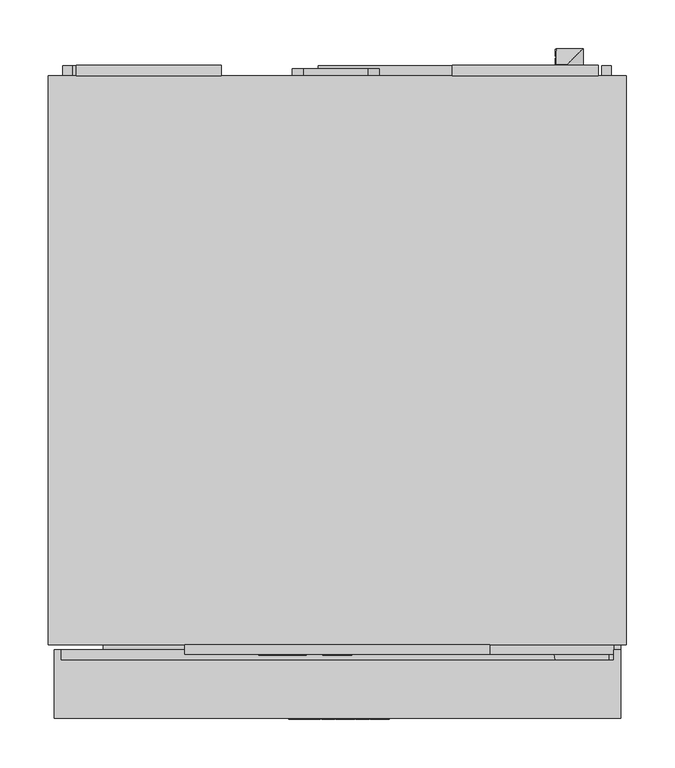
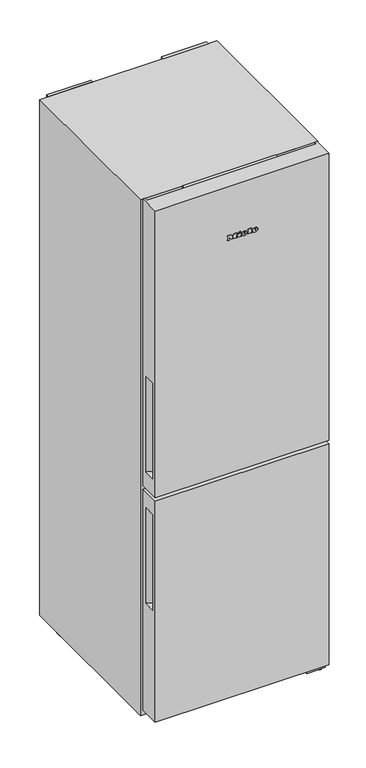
"""IFC4 building model written with IfcOpenShell, lengths in millimetres: proxy geometry, 12113020_J_KFN4375DD_EDTCS : 38437540_J_12113020_KFN4375DD_EDTCS."""

from ifc_helpers import new_model, si_unit, point, frame, frame_2d, origin, origin_with_axes, place, context, project, spatial, polyline, circle_curve, ellipse_curve, trimmed, segment, composite_curve, outline, extrude, faceted_brep, source, transform, mapped, element, save
from ifc_brep_helpers import plane_surface, cylinder_surface, revolved_surface, extruded_surface, advanced_brep


def specialty_equipment_1cc31974(model_context):
    return source(origin(), model_context, "Body", "SolidModel", [
        advanced_brep(
        [(42.14, -675.5, 1668.0722352), (42.14, -675.5, 1669.7892352), (53.513, -675.5, 1669.7892352), (33.725, -675.5, 1669.7892352), (38.4, -675.5, 1664.0432352), (53.224, -675.5, 1668.0722352), (48.09, -675.5, 1668.0722352), (44.044, -675.5, 1666.1682352), (42.14, -675.5, 1671.9652352), (42.14, -675.5, 1673.8182352), (45.047, -675.5, 1673.8182352), (45.047, -675.5, 1671.9652352), (42.14, -674.5, 1668.0722352), (44.044, -674.5, 1666.1682352), (48.09, -674.5, 1668.0722352), (53.224, -674.5, 1668.0722352), (38.4, -674.5, 1664.0432352), (33.725, -674.5, 1669.7892352), (53.513, -674.5, 1669.7892352), (42.14, -674.5, 1669.7892352), (42.14, -674.5, 1671.9652352), (45.047, -674.5, 1671.9652352), (45.047, -674.5, 1673.8182352), (42.14, -674.5, 1673.8182352)],
        [
            (0, 1),
            (1, 2),
            (2, 3, ellipse_curve(frame((43.619, -675.5, 1669.7892352), z_axis=(0.0, -1.0, 0.0), x_axis=(-1.0, 0.0, 0.0)), 9.894, 8.177)),
            (3, 4, circle_curve(frame((40.3040927, -675.5, 1670.3672352), z_axis=(0.0, -1.0, 0.0), x_axis=(0.0, 0.0, -1.0)), 6.6044337)),
            (4, 5, circle_curve(frame((43.4209364, -675.5, 1674.8552352), z_axis=(0.0, -1.0, 0.0), x_axis=(0.0, 0.0, -1.0)), 11.9209541)),
            (5, 6),
            (6, 7, circle_curve(frame((44.875, -675.5, 1669.6532352), z_axis=(0.0, 1.0, 0.0), x_axis=(0.0, 0.0, -1.0)), 3.5827065)),
            (7, 0, circle_curve(frame((44.044, -675.5, 1668.0722352), z_axis=(0.0, 1.0, 0.0), x_axis=(0.0, 0.0, -1.0)), 1.904)),
            (8, 9),
            (9, 10, circle_curve(frame((43.5935, -675.5, 1673.8182352), z_axis=(0.0, 1.0, 0.0), x_axis=(0.0, 0.0, -1.0)), 1.4535)),
            (10, 11),
            (11, 8),
            (12, 13, circle_curve(frame((44.044, -674.5, 1668.0722352), z_axis=(0.0, -1.0, 0.0), x_axis=(0.0, 0.0, -1.0)), 1.904)),
            (13, 14, circle_curve(frame((44.875, -674.5, 1669.6532352), z_axis=(0.0, -1.0, 0.0), x_axis=(0.0, 0.0, -1.0)), 3.5827065)),
            (14, 15),
            (15, 16, circle_curve(frame((43.4209364, -674.5, 1674.8552352), z_axis=(0.0, 1.0, 0.0), x_axis=(0.0, 0.0, -1.0)), 11.9209541)),
            (16, 17, circle_curve(frame((40.3040927, -674.5, 1670.3672352), z_axis=(0.0, 1.0, 0.0), x_axis=(0.0, 0.0, -1.0)), 6.6044337)),
            (17, 18, ellipse_curve(frame((43.619, -674.5, 1669.7892352), z_axis=(0.0, 1.0, 0.0), x_axis=(-1.0, 0.0, 0.0)), 9.894, 8.177)),
            (18, 19),
            (19, 12),
            (20, 21),
            (21, 22),
            (22, 23, circle_curve(frame((43.5935, -674.5, 1673.8182352), z_axis=(0.0, -1.0, 0.0), x_axis=(0.0, 0.0, -1.0)), 1.4535)),
            (23, 20),
            (0, 12),
            (19, 1),
            (18, 2),
            (5, 15),
            (14, 6),
            (17, 3),
            (13, 7),
            (16, 4),
            (8, 20),
            (23, 9),
            (22, 10),
            (21, 11),
        ],
        [
            plane_surface(frame((42.14, -675.5, 1669.7892352), z_axis=(0.0, -1.0, 0.0), x_axis=(0.0, 0.0, 1.0))),
            plane_surface(frame((42.14, -674.5, 1669.7892352), z_axis=(0.0, 1.0, 0.0), x_axis=(0.0, 0.0, -1.0))),
            plane_surface(frame((42.14, -675.5, 1668.0722352), z_axis=(1.0, 0.0, 0.0), x_axis=(0.0, 1.0, 0.0))),
            plane_surface(frame((42.14, -675.5, 1669.7892352), z_axis=(0.0, 0.0, -1.0), x_axis=(0.0, 1.0, 0.0))),
            plane_surface(frame((53.224, -675.5, 1668.0722352), z_axis=(0.0, 0.0, 1.0), x_axis=(0.0, 1.0, 0.0))),
            extruded_surface(trimmed(ellipse_curve(frame((43.619, -673.5, 1669.7892352), z_axis=(0.0, -1.0, 0.0), x_axis=(-1.0, 0.0, 0.0)), 9.894, 8.177), [point((53.513, -673.5, 1669.7892352))], [point((33.725, -673.5, 1669.7892352))], True, "CARTESIAN"), (0.0, -1.0, 0.0), 1.0),
            revolved_surface(polyline([(44.875, -674.5, 1666.0705286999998), (44.875, -675.5, 1666.0705286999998)]), (44.875, -674.5, 1669.6532352), (0.0, 1.0, 0.0)),
            revolved_surface(polyline([(44.044, -674.5, 1666.1682352), (44.044, -675.5, 1666.1682352)]), (44.044, -674.5, 1668.0722352), (0.0, 1.0, 0.0)),
            cylinder_surface(frame((40.3040927, -674.5, 1670.3672352), z_axis=(0.0, -1.0, 0.0), x_axis=(0.0, 0.0, -1.0)), 6.6044337),
            cylinder_surface(frame((43.4209364, -674.5, 1674.8552352), z_axis=(0.0, -1.0, 0.0), x_axis=(0.0, 0.0, -1.0)), 11.9209541),
            plane_surface(frame((42.14, -675.5, 1671.9652352), z_axis=(1.0, 0.0, 0.0), x_axis=(0.0, 1.0, 0.0))),
            revolved_surface(polyline([(43.5935, -674.5, 1672.3647351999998), (43.5935, -675.5, 1672.3647351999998)]), (43.5935, -674.5, 1673.8182352), (0.0, 1.0, 0.0)),
            plane_surface(frame((45.047, -675.5, 1673.8182352), z_axis=(-1.0, 0.0, 0.0), x_axis=(0.0, 1.0, 0.0))),
            plane_surface(frame((45.047, -675.5, 1671.9652352), z_axis=(0.0, 0.0, 1.0), x_axis=(0.0, 1.0, 0.0))),
        ],
        [
            (0, [[1, 2, 3, 4, 5, 6, 7, 8], [9, 10, 11, 12]]),
            (1, [[13, 14, 15, 16, 17, 18, 19, 20], [21, 22, 23, 24]]),
            (2, [[-1, 25, -20, 26]]),
            (3, [[-2, -26, -19, 27]]),
            (4, [[-6, 28, -15, 29]]),
            (5, [[-3, -27, -18, 30]]),
            (6, [[-7, -29, -14, 31]]),
            (7, [[-8, -31, -13, -25]]),
            (8, [[-4, -30, -17, 32]]),
            (9, [[-5, -32, -16, -28]]),
            (10, [[-9, 33, -24, 34]]),
            (11, [[-10, -34, -23, 35]]),
            (12, [[-11, -35, -22, 36]]),
            (13, [[-12, -36, -21, -33]]),
        ],
    ),
        advanced_brep(
        [(6.661, -675.5, 1668.0722352), (6.661, -675.5, 1669.7892352), (18.034, -675.5, 1669.7892352), (-1.754, -675.5, 1669.7892352), (2.921, -675.5, 1664.0432352), (17.745, -675.5, 1668.0722352), (12.611, -675.5, 1668.0722352), (8.565, -675.5, 1666.1682352), (6.661, -675.5, 1671.9652352), (6.661, -675.5, 1673.8182352), (9.568, -675.5, 1673.8182352), (9.568, -675.5, 1671.9652352), (6.661, -674.5, 1668.0722352), (8.565, -674.5, 1666.1682352), (12.611, -674.5, 1668.0722352), (17.745, -674.5, 1668.0722352), (2.921, -674.5, 1664.0432352), (-1.754, -674.5, 1669.7892352), (18.034, -674.5, 1669.7892352), (6.661, -674.5, 1669.7892352), (6.661, -674.5, 1671.9652352), (9.568, -674.5, 1671.9652352), (9.568, -674.5, 1673.8182352), (6.661, -674.5, 1673.8182352)],
        [
            (0, 1),
            (1, 2),
            (2, 3, ellipse_curve(frame((8.14, -675.5, 1669.7892352), z_axis=(0.0, -1.0, 0.0), x_axis=(-1.0, 0.0, 0.0)), 9.894, 8.177)),
            (3, 4, circle_curve(frame((4.8250927, -675.5, 1670.3672352), z_axis=(0.0, -1.0, 0.0), x_axis=(0.0, 0.0, -1.0)), 6.6044337)),
            (4, 5, circle_curve(frame((7.9419364, -675.5, 1674.8552352), z_axis=(0.0, -1.0, 0.0), x_axis=(0.0, 0.0, -1.0)), 11.9209541)),
            (5, 6),
            (6, 7, circle_curve(frame((9.396, -675.5, 1669.6532352), z_axis=(0.0, 1.0, 0.0), x_axis=(0.0, 0.0, -1.0)), 3.5827065)),
            (7, 0, circle_curve(frame((8.565, -675.5, 1668.0722352), z_axis=(0.0, 1.0, 0.0), x_axis=(0.0, 0.0, -1.0)), 1.904)),
            (8, 9),
            (9, 10, circle_curve(frame((8.1145, -675.5, 1673.8182352), z_axis=(0.0, 1.0, 0.0), x_axis=(0.0, 0.0, -1.0)), 1.4535)),
            (10, 11),
            (11, 8),
            (12, 13, circle_curve(frame((8.565, -674.5, 1668.0722352), z_axis=(0.0, -1.0, 0.0), x_axis=(0.0, 0.0, -1.0)), 1.904)),
            (13, 14, circle_curve(frame((9.396, -674.5, 1669.6532352), z_axis=(0.0, -1.0, 0.0), x_axis=(0.0, 0.0, -1.0)), 3.5827065)),
            (14, 15),
            (15, 16, circle_curve(frame((7.9419364, -674.5, 1674.8552352), z_axis=(0.0, 1.0, 0.0), x_axis=(0.0, 0.0, -1.0)), 11.9209541)),
            (16, 17, circle_curve(frame((4.8250927, -674.5, 1670.3672352), z_axis=(0.0, 1.0, 0.0), x_axis=(0.0, 0.0, -1.0)), 6.6044337)),
            (17, 18, ellipse_curve(frame((8.14, -674.5, 1669.7892352), z_axis=(0.0, 1.0, 0.0), x_axis=(-1.0, 0.0, 0.0)), 9.894, 8.177)),
            (18, 19),
            (19, 12),
            (20, 21),
            (21, 22),
            (22, 23, circle_curve(frame((8.1145, -674.5, 1673.8182352), z_axis=(0.0, -1.0, 0.0), x_axis=(0.0, 0.0, -1.0)), 1.4535)),
            (23, 20),
            (0, 12),
            (19, 1),
            (18, 2),
            (5, 15),
            (14, 6),
            (17, 3),
            (13, 7),
            (16, 4),
            (8, 20),
            (23, 9),
            (22, 10),
            (21, 11),
        ],
        [
            plane_surface(frame((6.661, -675.5, 1669.7892352), z_axis=(0.0, -1.0, 0.0), x_axis=(0.0, 0.0, 1.0))),
            plane_surface(frame((6.661, -674.5, 1669.7892352), z_axis=(0.0, 1.0, 0.0), x_axis=(0.0, 0.0, -1.0))),
            plane_surface(frame((6.661, -675.5, 1668.0722352), z_axis=(1.0, 0.0, 0.0), x_axis=(0.0, 1.0, 0.0))),
            plane_surface(frame((6.661, -675.5, 1669.7892352), z_axis=(0.0, 0.0, -1.0), x_axis=(0.0, 1.0, 0.0))),
            plane_surface(frame((17.745, -675.5, 1668.0722352), z_axis=(0.0, 0.0, 1.0), x_axis=(0.0, 1.0, 0.0))),
            extruded_surface(trimmed(ellipse_curve(frame((8.14, -673.5, 1669.7892352), z_axis=(0.0, -1.0, 0.0), x_axis=(-1.0, 0.0, 0.0)), 9.894, 8.177), [point((18.034, -673.5, 1669.7892352))], [point((-1.754, -673.5, 1669.7892352))], True, "CARTESIAN"), (0.0, -1.0, 0.0), 1.0),
            revolved_surface(polyline([(9.396, -674.5, 1666.0705286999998), (9.396, -675.5, 1666.0705286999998)]), (9.396, -674.5, 1669.6532352), (0.0, 1.0, 0.0)),
            revolved_surface(polyline([(8.565, -674.5, 1666.1682352), (8.565, -675.5, 1666.1682352)]), (8.565, -674.5, 1668.0722352), (0.0, 1.0, 0.0)),
            cylinder_surface(frame((4.8250927, -674.5, 1670.3672352), z_axis=(0.0, -1.0, 0.0), x_axis=(0.0, 0.0, -1.0)), 6.6044337),
            cylinder_surface(frame((7.9419364, -674.5, 1674.8552352), z_axis=(0.0, -1.0, 0.0), x_axis=(0.0, 0.0, -1.0)), 11.9209541),
            plane_surface(frame((6.661, -675.5, 1671.9652352), z_axis=(1.0, 0.0, 0.0), x_axis=(0.0, 1.0, 0.0))),
            revolved_surface(polyline([(8.1145, -674.5, 1672.3647351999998), (8.1145, -675.5, 1672.3647351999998)]), (8.1145, -674.5, 1673.8182352), (0.0, 1.0, 0.0)),
            plane_surface(frame((9.568, -675.5, 1673.8182352), z_axis=(-1.0, 0.0, 0.0), x_axis=(0.0, 1.0, 0.0))),
            plane_surface(frame((9.568, -675.5, 1671.9652352), z_axis=(0.0, 0.0, 1.0), x_axis=(0.0, 1.0, 0.0))),
        ],
        [
            (0, [[1, 2, 3, 4, 5, 6, 7, 8], [9, 10, 11, 12]]),
            (1, [[13, 14, 15, 16, 17, 18, 19, 20], [21, 22, 23, 24]]),
            (2, [[-1, 25, -20, 26]]),
            (3, [[-2, -26, -19, 27]]),
            (4, [[-6, 28, -15, 29]]),
            (5, [[-3, -27, -18, 30]]),
            (6, [[-7, -29, -14, 31]]),
            (7, [[-8, -31, -13, -25]]),
            (8, [[-4, -30, -17, 32]]),
            (9, [[-5, -32, -16, -28]]),
            (10, [[-9, 33, -24, 34]]),
            (11, [[-10, -34, -23, 35]]),
            (12, [[-11, -35, -22, 36]]),
            (13, [[-12, -36, -21, -33]]),
        ],
    ),
        extrude(outline(polyline([(1680.0402352, -11.92), (1677.2862352, -10.628), (1679.9722352, -4.865), (1682.7262352, -6.14), (1680.0402352, -11.92)])), frame((0.0, -675.5, 0.0), z_axis=(0.0, 1.0, 0.0), x_axis=(0.0, 0.0, 1.0)), (0.0, 0.0, 1.0), 1.0),
        extrude(outline(polyline([(1676.9122352, -16.119), (1673.8692352, -16.119), (1673.8692352, -14.096), (1666.8992352, -14.096), (1666.8992352, -16.119), (1664.0432352, -16.119), (1664.0432352, -2.706), (1666.8992352, -2.706), (1666.8992352, -4.678), (1676.9122352, -4.678), (1676.9122352, -16.119)])), frame((0.0, -675.5, 0.0), z_axis=(0.0, 1.0, 0.0), x_axis=(0.0, 0.0, 1.0)), (0.0, 0.0, 1.0), 1.0),
        extrude(outline(polyline([(1678.2722352, 18.986), (1678.2722352, 21.026), (1666.8992352, 21.026), (1666.8992352, 18.986), (1664.0432352, 18.986), (1664.0432352, 32.773), (1666.8992352, 32.773), (1666.8992352, 30.682), (1681.0432352, 30.682), (1681.0432352, 18.986), (1678.2722352, 18.986)])), frame((0.0, -675.5, 0.0), z_axis=(0.0, 1.0, 0.0), x_axis=(0.0, 0.0, 1.0)), (0.0, 0.0, 1.0), 1.0),
        extrude(outline(polyline([(1678.2722352, -50.0), (1678.2722352, -47.943), (1666.8992352, -47.943), (1666.8992352, -50.0), (1664.0432352, -50.0), (1664.0432352, -42.52), (1666.8992352, -42.52), (1666.8992352, -44.56), (1674.0733599, -44.56), (1664.0432352, -36.961), (1674.4834575, -29.328), (1666.8992352, -29.328), (1666.8992352, -31.419), (1664.0432352, -31.419), (1664.0432352, -17.853), (1666.8992352, -17.853), (1666.8992352, -20.012), (1678.2722352, -20.012), (1678.2722352, -17.853), (1681.0432352, -17.853), (1681.0432352, -28.206), (1674.6682352, -33.17), (1681.0432352, -38.151), (1681.0432352, -50.0), (1678.2722352, -50.0)])), frame((0.0, -675.5, 0.0), z_axis=(0.0, 1.0, 0.0), x_axis=(0.0, 0.0, 1.0)), (0.0, 0.0, 1.0), 1.0),
        advanced_brep(
        [(-37.64, -609.5, 1825.408), (-37.64, -609.5, 1826.216), (-32.288, -609.5, 1826.216), (-41.6, -609.5, 1826.216), (-39.4, -609.5, 1823.512), (-32.424, -609.5, 1825.408), (-34.84, -609.5, 1825.408), (-36.744, -609.5, 1824.512), (-37.64, -609.5, 1827.24), (-37.64, -609.5, 1828.112), (-36.272, -609.5, 1828.112), (-36.272, -609.5, 1827.24), (-37.64, -608.5, 1825.408), (-36.744, -608.5, 1824.512), (-34.84, -608.5, 1825.408), (-32.424, -608.5, 1825.408), (-39.4, -608.5, 1823.512), (-41.6, -608.5, 1826.216), (-32.288, -608.5, 1826.216), (-37.64, -608.5, 1826.216), (-37.64, -608.5, 1827.24), (-36.272, -608.5, 1827.24), (-36.272, -608.5, 1828.112), (-37.64, -608.5, 1828.112)],
        [
            (0, 1),
            (1, 2),
            (2, 3, ellipse_curve(frame((-36.944, -609.5, 1826.216), z_axis=(0.0, -1.0, 0.0), x_axis=(-1.0, 0.0, 0.0)), 4.656, 3.848)),
            (3, 4, circle_curve(frame((-38.5039564, -609.5, 1826.488), z_axis=(0.0, -1.0, 0.0), x_axis=(0.0, 0.0, -1.0)), 3.1079688)),
            (4, 5, circle_curve(frame((-37.0372064, -609.5, 1828.6), z_axis=(0.0, -1.0, 0.0), x_axis=(0.0, 0.0, -1.0)), 5.6098607)),
            (5, 6),
            (6, 7, circle_curve(frame((-36.3529412, -609.5, 1826.152), z_axis=(0.0, 1.0, 0.0), x_axis=(0.0, 0.0, -1.0)), 1.6859795)),
            (7, 0, circle_curve(frame((-36.744, -609.5, 1825.408), z_axis=(0.0, 1.0, 0.0), x_axis=(0.0, 0.0, -1.0)), 0.896)),
            (8, 9),
            (9, 10, circle_curve(frame((-36.956, -609.5, 1828.112), z_axis=(0.0, 1.0, 0.0), x_axis=(0.0, 0.0, -1.0)), 0.684)),
            (10, 11),
            (11, 8),
            (12, 13, circle_curve(frame((-36.744, -608.5, 1825.408), z_axis=(0.0, -1.0, 0.0), x_axis=(0.0, 0.0, -1.0)), 0.896)),
            (13, 14, circle_curve(frame((-36.3529412, -608.5, 1826.152), z_axis=(0.0, -1.0, 0.0), x_axis=(0.0, 0.0, -1.0)), 1.6859795)),
            (14, 15),
            (15, 16, circle_curve(frame((-37.0372064, -608.5, 1828.6), z_axis=(0.0, 1.0, 0.0), x_axis=(0.0, 0.0, -1.0)), 5.6098607)),
            (16, 17, circle_curve(frame((-38.5039564, -608.5, 1826.488), z_axis=(0.0, 1.0, 0.0), x_axis=(0.0, 0.0, -1.0)), 3.1079688)),
            (17, 18, ellipse_curve(frame((-36.944, -608.5, 1826.216), z_axis=(0.0, 1.0, 0.0), x_axis=(-1.0, 0.0, 0.0)), 4.656, 3.848)),
            (18, 19),
            (19, 12),
            (20, 21),
            (21, 22),
            (22, 23, circle_curve(frame((-36.956, -608.5, 1828.112), z_axis=(0.0, -1.0, 0.0), x_axis=(0.0, 0.0, -1.0)), 0.684)),
            (23, 20),
            (0, 12),
            (19, 1),
            (18, 2),
            (5, 15),
            (14, 6),
            (17, 3),
            (13, 7),
            (16, 4),
            (8, 20),
            (23, 9),
            (22, 10),
            (21, 11),
        ],
        [
            plane_surface(frame((-37.64, -609.5, 1826.216), z_axis=(0.0, -1.0, 0.0), x_axis=(0.0, 0.0, 1.0))),
            plane_surface(frame((-37.64, -608.5, 1826.216), z_axis=(0.0, 1.0, 0.0), x_axis=(0.0, 0.0, -1.0))),
            plane_surface(frame((-37.64, -609.5, 1825.408), z_axis=(1.0, 0.0, 0.0), x_axis=(0.0, 1.0, 0.0))),
            plane_surface(frame((-37.64, -609.5, 1826.216), z_axis=(0.0, 0.0, -1.0), x_axis=(0.0, 1.0, 0.0))),
            plane_surface(frame((-32.424, -609.5, 1825.408), z_axis=(0.0, 0.0, 1.0), x_axis=(0.0, 1.0, 0.0))),
            extruded_surface(trimmed(ellipse_curve(frame((-36.944, -607.5, 1826.216), z_axis=(0.0, -1.0, 0.0), x_axis=(-1.0, 0.0, 0.0)), 4.656, 3.848), [point((-32.288, -607.5, 1826.216))], [point((-41.6, -607.5, 1826.216))], True, "CARTESIAN"), (0.0, -1.0, 0.0), 1.0),
            revolved_surface(polyline([(-36.3529412, -608.5, 1824.4660205), (-36.3529412, -609.5, 1824.4660205)]), (-36.3529412, -608.5, 1826.152), (0.0, 1.0, 0.0)),
            revolved_surface(polyline([(-36.744, -608.5, 1824.512), (-36.744, -609.5, 1824.512)]), (-36.744, -608.5, 1825.408), (0.0, 1.0, 0.0)),
            cylinder_surface(frame((-38.5039564, -608.5, 1826.488), z_axis=(0.0, -1.0, 0.0), x_axis=(0.0, 0.0, -1.0)), 3.1079688),
            cylinder_surface(frame((-37.0372064, -608.5, 1828.6), z_axis=(0.0, -1.0, 0.0), x_axis=(0.0, 0.0, -1.0)), 5.6098607),
            plane_surface(frame((-37.64, -609.5, 1827.24), z_axis=(1.0, 0.0, 0.0), x_axis=(0.0, 1.0, 0.0))),
            revolved_surface(polyline([(-36.956, -608.5, 1827.428), (-36.956, -609.5, 1827.428)]), (-36.956, -608.5, 1828.112), (0.0, 1.0, 0.0)),
            plane_surface(frame((-36.272, -609.5, 1828.112), z_axis=(-1.0, 0.0, 0.0), x_axis=(0.0, 1.0, 0.0))),
            plane_surface(frame((-36.272, -609.5, 1827.24), z_axis=(0.0, 0.0, 1.0), x_axis=(0.0, 1.0, 0.0))),
        ],
        [
            (0, [[1, 2, 3, 4, 5, 6, 7, 8], [9, 10, 11, 12]]),
            (1, [[13, 14, 15, 16, 17, 18, 19, 20], [21, 22, 23, 24]]),
            (2, [[-1, 25, -20, 26]]),
            (3, [[-2, -26, -19, 27]]),
            (4, [[-6, 28, -15, 29]]),
            (5, [[-3, -27, -18, 30]]),
            (6, [[-7, -29, -14, 31]]),
            (7, [[-8, -31, -13, -25]]),
            (8, [[-4, -30, -17, 32]]),
            (9, [[-5, -32, -16, -28]]),
            (10, [[-9, 33, -24, 34]]),
            (11, [[-10, -34, -23, 35]]),
            (12, [[-11, -35, -22, 36]]),
            (13, [[-12, -36, -21, -33]]),
        ],
    ),
        advanced_brep(
        [(-54.336, -609.5, 1825.408), (-54.336, -609.5, 1826.216), (-48.984, -609.5, 1826.216), (-58.296, -609.5, 1826.216), (-56.096, -609.5, 1823.512), (-49.12, -609.5, 1825.408), (-51.536, -609.5, 1825.408), (-53.44, -609.5, 1824.512), (-54.336, -609.5, 1827.24), (-54.336, -609.5, 1828.112), (-52.968, -609.5, 1828.112), (-52.968, -609.5, 1827.24), (-54.336, -608.5, 1825.408), (-53.44, -608.5, 1824.512), (-51.536, -608.5, 1825.408), (-49.12, -608.5, 1825.408), (-56.096, -608.5, 1823.512), (-58.296, -608.5, 1826.216), (-48.984, -608.5, 1826.216), (-54.336, -608.5, 1826.216), (-54.336, -608.5, 1827.24), (-52.968, -608.5, 1827.24), (-52.968, -608.5, 1828.112), (-54.336, -608.5, 1828.112)],
        [
            (0, 1),
            (1, 2),
            (2, 3, ellipse_curve(frame((-53.64, -609.5, 1826.216), z_axis=(0.0, -1.0, 0.0), x_axis=(-1.0, 0.0, 0.0)), 4.656, 3.848)),
            (3, 4, circle_curve(frame((-55.1999564, -609.5, 1826.488), z_axis=(0.0, -1.0, 0.0), x_axis=(0.0, 0.0, -1.0)), 3.1079688)),
            (4, 5, circle_curve(frame((-53.7332064, -609.5, 1828.6), z_axis=(0.0, -1.0, 0.0), x_axis=(0.0, 0.0, -1.0)), 5.6098607)),
            (5, 6),
            (6, 7, circle_curve(frame((-53.0489412, -609.5, 1826.152), z_axis=(0.0, 1.0, 0.0), x_axis=(0.0, 0.0, -1.0)), 1.6859795)),
            (7, 0, circle_curve(frame((-53.44, -609.5, 1825.408), z_axis=(0.0, 1.0, 0.0), x_axis=(0.0, 0.0, -1.0)), 0.896)),
            (8, 9),
            (9, 10, circle_curve(frame((-53.652, -609.5, 1828.112), z_axis=(0.0, 1.0, 0.0), x_axis=(0.0, 0.0, -1.0)), 0.684)),
            (10, 11),
            (11, 8),
            (12, 13, circle_curve(frame((-53.44, -608.5, 1825.408), z_axis=(0.0, -1.0, 0.0), x_axis=(0.0, 0.0, -1.0)), 0.896)),
            (13, 14, circle_curve(frame((-53.0489412, -608.5, 1826.152), z_axis=(0.0, -1.0, 0.0), x_axis=(0.0, 0.0, -1.0)), 1.6859795)),
            (14, 15),
            (15, 16, circle_curve(frame((-53.7332064, -608.5, 1828.6), z_axis=(0.0, 1.0, 0.0), x_axis=(0.0, 0.0, -1.0)), 5.6098607)),
            (16, 17, circle_curve(frame((-55.1999564, -608.5, 1826.488), z_axis=(0.0, 1.0, 0.0), x_axis=(0.0, 0.0, -1.0)), 3.1079688)),
            (17, 18, ellipse_curve(frame((-53.64, -608.5, 1826.216), z_axis=(0.0, 1.0, 0.0), x_axis=(-1.0, 0.0, 0.0)), 4.656, 3.848)),
            (18, 19),
            (19, 12),
            (20, 21),
            (21, 22),
            (22, 23, circle_curve(frame((-53.652, -608.5, 1828.112), z_axis=(0.0, -1.0, 0.0), x_axis=(0.0, 0.0, -1.0)), 0.684)),
            (23, 20),
            (0, 12),
            (19, 1),
            (18, 2),
            (5, 15),
            (14, 6),
            (17, 3),
            (13, 7),
            (16, 4),
            (8, 20),
            (23, 9),
            (22, 10),
            (21, 11),
        ],
        [
            plane_surface(frame((-54.336, -609.5, 1826.216), z_axis=(0.0, -1.0, 0.0), x_axis=(0.0, 0.0, 1.0))),
            plane_surface(frame((-54.336, -608.5, 1826.216), z_axis=(0.0, 1.0, 0.0), x_axis=(0.0, 0.0, -1.0))),
            plane_surface(frame((-54.336, -609.5, 1825.408), z_axis=(1.0, 0.0, 0.0), x_axis=(0.0, 1.0, 0.0))),
            plane_surface(frame((-54.336, -609.5, 1826.216), z_axis=(0.0, 0.0, -1.0), x_axis=(0.0, 1.0, 0.0))),
            plane_surface(frame((-49.12, -609.5, 1825.408), z_axis=(0.0, 0.0, 1.0), x_axis=(0.0, 1.0, 0.0))),
            extruded_surface(trimmed(ellipse_curve(frame((-53.64, -607.5, 1826.216), z_axis=(0.0, -1.0, 0.0), x_axis=(-1.0, 0.0, 0.0)), 4.656, 3.848), [point((-48.984, -607.5, 1826.216))], [point((-58.296, -607.5, 1826.216))], True, "CARTESIAN"), (0.0, -1.0, 0.0), 1.0),
            revolved_surface(polyline([(-53.0489412, -608.5, 1824.4660205), (-53.0489412, -609.5, 1824.4660205)]), (-53.0489412, -608.5, 1826.152), (0.0, 1.0, 0.0)),
            revolved_surface(polyline([(-53.44, -608.5, 1824.512), (-53.44, -609.5, 1824.512)]), (-53.44, -608.5, 1825.408), (0.0, 1.0, 0.0)),
            cylinder_surface(frame((-55.1999564, -608.5, 1826.488), z_axis=(0.0, -1.0, 0.0), x_axis=(0.0, 0.0, -1.0)), 3.1079688),
            cylinder_surface(frame((-53.7332064, -608.5, 1828.6), z_axis=(0.0, -1.0, 0.0), x_axis=(0.0, 0.0, -1.0)), 5.6098607),
            plane_surface(frame((-54.336, -609.5, 1827.24), z_axis=(1.0, 0.0, 0.0), x_axis=(0.0, 1.0, 0.0))),
            revolved_surface(polyline([(-53.652, -608.5, 1827.428), (-53.652, -609.5, 1827.428)]), (-53.652, -608.5, 1828.112), (0.0, 1.0, 0.0)),
            plane_surface(frame((-52.968, -609.5, 1828.112), z_axis=(-1.0, 0.0, 0.0), x_axis=(0.0, 1.0, 0.0))),
            plane_surface(frame((-52.968, -609.5, 1827.24), z_axis=(0.0, 0.0, 1.0), x_axis=(0.0, 1.0, 0.0))),
        ],
        [
            (0, [[1, 2, 3, 4, 5, 6, 7, 8], [9, 10, 11, 12]]),
            (1, [[13, 14, 15, 16, 17, 18, 19, 20], [21, 22, 23, 24]]),
            (2, [[-1, 25, -20, 26]]),
            (3, [[-2, -26, -19, 27]]),
            (4, [[-6, 28, -15, 29]]),
            (5, [[-3, -27, -18, 30]]),
            (6, [[-7, -29, -14, 31]]),
            (7, [[-8, -31, -13, -25]]),
            (8, [[-4, -30, -17, 32]]),
            (9, [[-5, -32, -16, -28]]),
            (10, [[-9, 33, -24, 34]]),
            (11, [[-10, -34, -23, 35]]),
            (12, [[-11, -35, -22, 36]]),
            (13, [[-12, -36, -21, -33]]),
        ],
    ),
        extrude(outline(polyline([(1831.04, -63.08), (1829.744, -62.472), (1831.008, -59.76), (1832.304, -60.36), (1831.04, -63.08)])), frame((0.0, -609.5, 0.0), z_axis=(0.0, 1.0, 0.0), x_axis=(0.0, 0.0, 1.0)), (0.0, 0.0, 1.0), 1.0),
        extrude(outline(polyline([(1829.568, -65.056), (1828.136, -65.056), (1828.136, -64.104), (1824.856, -64.104), (1824.856, -65.056), (1823.512, -65.056), (1823.512, -58.744), (1824.856, -58.744), (1824.856, -59.672), (1829.568, -59.672), (1829.568, -65.056)])), frame((0.0, -609.5, 0.0), z_axis=(0.0, 1.0, 0.0), x_axis=(0.0, 0.0, 1.0)), (0.0, 0.0, 1.0), 1.0),
        extrude(outline(polyline([(1830.208, -48.536), (1830.208, -47.576), (1824.856, -47.576), (1824.856, -48.536), (1823.512, -48.536), (1823.512, -42.048), (1824.856, -42.048), (1824.856, -43.032), (1831.512, -43.032), (1831.512, -48.536), (1830.208, -48.536)])), frame((0.0, -609.5, 0.0), z_axis=(0.0, 1.0, 0.0), x_axis=(0.0, 0.0, 1.0)), (0.0, 0.0, 1.0), 1.0),
        extrude(outline(polyline([(1830.208, -81.0), (1830.208, -80.032), (1824.856, -80.032), (1824.856, -81.0), (1823.512, -81.0), (1823.512, -77.48), (1824.856, -77.48), (1824.856, -78.44), (1828.2591247, -78.44), (1823.512, -74.864), (1828.3272223, -71.272), (1824.856, -71.272), (1824.856, -72.256), (1823.512, -72.256), (1823.512, -65.872), (1824.856, -65.872), (1824.856, -66.888), (1830.208, -66.888), (1830.208, -65.872), (1831.512, -65.872), (1831.512, -70.744), (1828.512, -73.08), (1831.512, -75.424), (1831.512, -81.0), (1830.208, -81.0)])), frame((0.0, -609.5, 0.0), z_axis=(0.0, 1.0, 0.0), x_axis=(0.0, 0.0, 1.0)), (0.0, 0.0, 1.0), 1.0),
        extrude(outline(polyline([(15.0, -609.5), (-15.0, -609.5), (-15.0, -606.5), (15.0, -606.5), (15.0, -609.5)])), frame((0.0, 0.0, 1812.0), z_axis=(0.0, 0.0, 1.0), x_axis=(1.0, 0.0, 0.0)), (0.0, 0.0, 1.0), 28.0),
        extrude(outline(polyline([(1845.5, 105.0), (1845.5, -105.0), (1806.5, -105.0), (1806.5, 105.0), (1845.5, 105.0)]), holes=[polyline([(1840.0, -15.0), (1840.0, 15.0), (1812.0, 15.0), (1812.0, -15.0), (1840.0, -15.0)])]), frame((0.0, -608.5, 0.0), z_axis=(0.0, 1.0, 0.0), x_axis=(0.0, 0.0, 1.0)), (0.0, 0.0, 1.0), 2.0),
        faceted_brep([(157.5, -598.5, 1802.0), (157.5, -608.5, 1802.0), (-157.5, -608.5, 1802.0), (-157.5, -598.5, 1802.0), (157.5, -598.5, 1850.0), (-157.5, -598.5, 1850.0), (-157.5, -608.5, 1850.0), (157.5, -608.5, 1850.0), (-105.0, -608.5, 1845.5), (105.0, -608.5, 1845.5), (105.0, -608.5, 1806.5), (-105.0, -608.5, 1806.5), (105.0, -606.5, 1845.5), (-105.0, -606.5, 1845.5), (-105.0, -606.5, 1806.5), (105.0, -606.5, 1806.5)], [[[0, 1, 2, 3]], [[4, 5, 6, 7]], [[0, 3, 5, 4]], [[3, 2, 6, 5]], [[2, 1, 7, 6], [8, 9, 10, 11]], [[1, 0, 4, 7]], [[12, 13, 14, 15]], [[13, 12, 9, 8]], [[14, 13, 8, 11]], [[15, 14, 11, 10]], [[12, 15, 10, 9]]]),
        extrude(outline(polyline([(282.8810028, -10.5), (272.8810028, -10.5), (272.8810028, 0.0), (282.8810028, 0.0), (282.8810028, -10.5)])), frame((0.0, 0.0, 237.8679319), z_axis=(0.0, 0.0, 1.0), x_axis=(1.0, 0.0, 0.0)), (0.0, 0.0, 1.0), 20.0),
        extrude(outline(polyline([(-273.8280905, -10.5), (-283.8280905, -10.5), (-283.8280905, 0.0), (-273.8280905, 0.0), (-273.8280905, -10.5)])), frame((0.0, 0.0, 238.6137901), z_axis=(0.0, 0.0, 1.0), x_axis=(1.0, 0.0, 0.0)), (0.0, 0.0, 1.0), 20.0),
        extrude(outline(composite_curve([segment(trimmed(circle_curve(frame_2d((840.8612688, -34.7533113)), 12.0), [point((852.8612688, -34.7533113))], [point((840.8612688, -46.7533113))], False, "CARTESIAN"), True, "CONTINUOUS"), segment(polyline([(840.8612688, -46.7533113), (814.8612688, -46.7533113)]), True, "CONTINUOUS"), segment(trimmed(circle_curve(frame_2d((814.8612688, -34.7533113)), 12.0), [point((814.8612688, -46.7533113))], [point((802.8612688, -34.7533113))], False, "CARTESIAN"), True, "CONTINUOUS"), segment(polyline([(802.8612688, -34.7533113), (802.8612688, 31.2466887)]), True, "CONTINUOUS"), segment(trimmed(circle_curve(frame_2d((814.8612688, 31.2466887)), 12.0), [point((802.8612688, 31.2466887))], [point((814.8612688, 43.2466887))], False, "CARTESIAN"), True, "CONTINUOUS"), segment(polyline([(814.8612688, 43.2466887), (840.8612688, 43.2466887)]), True, "CONTINUOUS"), segment(trimmed(circle_curve(frame_2d((840.8612688, 31.2466887)), 12.0), [point((840.8612688, 43.2466887))], [point((852.8612688, 31.2466887))], False, "CARTESIAN"), True, "CONTINUOUS"), segment(polyline([(852.8612688, 31.2466887), (852.8612688, -34.7533113)]), True, "CONTINUOUS")], self_intersect=False)), frame((0.0, -10.5, 0.0), z_axis=(0.0, 1.0, 0.0), x_axis=(0.0, 0.0, 1.0)), (0.0, 0.0, 1.0), 7.0),
        extrude(outline(polyline([(151.5, -10.5), (-19.5, -10.5), (-19.5, 0.0), (151.5, 0.0), (151.5, -10.5)])), frame((0.0, 0.0, 64.0), z_axis=(0.0, 0.0, 1.0), x_axis=(1.0, 0.0, 0.0)), (0.0, 0.0, 1.0), 96.0),
        extrude(outline(polyline([(-135.5, -10.5), (-274.5, -10.5), (-274.5, 0.0), (-135.5, 0.0), (-135.5, -10.5)])), frame((0.0, 0.0, 64.0), z_axis=(0.0, 0.0, 1.0), x_axis=(1.0, 0.0, 0.0)), (0.0, 0.0, 1.0), 96.0),
        extrude(outline(polyline([(269.5372046, -10.5), (118.7052435, -10.5), (118.7052435, 0.0), (269.5372046, 0.0), (269.5372046, -10.5)])), frame((0.0, 0.0, 1826.0), z_axis=(0.0, 0.0, 1.0), x_axis=(1.0, 0.0, 0.0)), (0.0, 0.0, 1.0), 24.0),
        extrude(outline(polyline([(-119.8489664, -10.5), (-269.5372046, -10.5), (-269.5372046, 0.0), (-119.8489664, 0.0), (-119.8489664, -10.5)])), frame((0.0, 0.0, 1826.0), z_axis=(0.0, 0.0, 1.0), x_axis=(1.0, 0.0, 0.0)), (0.0, 0.0, 1.0), 24.0),
        extrude(outline(composite_curve([segment(trimmed(circle_curve(frame_2d((-247.5, -584.5103704)), 10.0), [point((-257.5, -584.5103704))], [point((-237.5, -584.5103704))], False, "CARTESIAN"), True, "CONTINUOUS"), segment(trimmed(circle_curve(frame_2d((-247.5, -584.5103704)), 10.0), [point((-237.5, -584.5103704))], [point((-257.5, -584.5103704))], False, "CARTESIAN"), True, "CONTINUOUS")], self_intersect=False)), origin_with_axes(), (0.0, 0.0, 1.0), 15.0),
        extrude(outline(composite_curve([segment(trimmed(circle_curve(frame_2d((247.5, -584.4761218)), 10.0), [point((237.5, -584.4761218))], [point((257.5, -584.4761218))], False, "CARTESIAN"), True, "CONTINUOUS"), segment(trimmed(circle_curve(frame_2d((247.5, -584.4761218)), 10.0), [point((257.5, -584.4761218))], [point((237.5, -584.4761218))], False, "CARTESIAN"), True, "CONTINUOUS")], self_intersect=False)), origin_with_axes(), (0.0, 0.0, 1.0), 15.0),
        extrude(outline(polyline([(271.8948956, -31.0417683), (271.8948956, -529.6387407), (-271.8948956, -529.6387407), (-271.8948956, -31.0417683), (271.8948956, -31.0417683)])), frame((0.0, 0.0, 5.0), z_axis=(0.0, 0.0, 1.0), x_axis=(1.0, 0.0, 0.0)), (0.0, 0.0, 1.0), 10.0),
        faceted_brep([(298.5, -10.5, 1850.0), (-298.5, -10.5, 1850.0), (-298.5, -598.5, 1850.0), (298.5, -598.5, 1850.0), (298.5, -10.5, 15.0), (298.5, -598.5, 15.0), (-298.5, -598.5, 15.0), (-298.5, -10.5, 15.0), (-240.0, -598.5, 1785.0), (240.0, -598.5, 1785.0), (240.0, -598.5, 848.0), (-240.0, -598.5, 848.0), (-240.0, -598.5, 800.0), (240.0, -598.5, 800.0), (240.0, -598.5, 165.0), (-240.0, -598.5, 165.0), (-240.0, -71.5, 1785.0), (240.0, -71.5, 1785.0), (240.0, -71.5, 848.0), (-240.0, -71.5, 848.0), (-240.0, -71.5, 800.0), (240.0, -71.5, 800.0), (240.0, -71.5, 165.0), (-240.0, -71.5, 165.0)], [[[0, 1, 2, 3]], [[4, 5, 6, 7]], [[1, 0, 4, 7]], [[2, 1, 7, 6]], [[3, 2, 6, 5], [8, 9, 10, 11], [12, 13, 14, 15]], [[0, 3, 5, 4]], [[16, 17, 9, 8]], [[18, 19, 11, 10]], [[17, 16, 19, 18]], [[19, 16, 8, 11]], [[17, 18, 10, 9]], [[20, 21, 13, 12]], [[22, 23, 15, 14]], [[21, 20, 23, 22]], [[23, 20, 12, 15]], [[21, 22, 14, 13]]]),
        extrude(outline(polyline([(-43.4087271, 0.0), (-57.6632757, 0.0), (-61.1643134, 5.0), (-41.0771888, 5.0), (-43.4087271, 0.0)])), frame((248.5, 0.0, 0.0), z_axis=(1.0, 0.0, 0.0), x_axis=(0.0, 1.0, 0.0)), (0.0, 0.0, 1.0), 15.0),
        extrude(outline(polyline([(-43.4087271, 0.0), (-57.6632757, 0.0), (-61.1643134, 5.0), (-41.0771888, 5.0), (-43.4087271, 0.0)])), frame((-263.5, 0.0, 0.0), z_axis=(1.0, 0.0, 0.0), x_axis=(0.0, 1.0, 0.0)), (0.0, 0.0, 1.0), 15.0),
        extrude(outline(polyline([(16.8772603, 142.0), (9.5, 142.0), (9.5, 143.2557039), (15.6215564, 143.2557039), (15.6215564, 146.5519266), (9.970889, 146.5519266), (9.970889, 147.8076304), (15.6215564, 147.8076304), (15.6215564, 150.7899271), (9.656963, 150.7899271), (9.656963, 152.045631), (16.8772603, 152.045631), (16.8772603, 142.0)])), frame((224.9201307, 0.0, 0.0), z_axis=(1.0, 0.0, 0.0), x_axis=(0.0, 1.0, 0.0)), (0.0, 0.0, 1.0), 1.0),
        extrude(outline(polyline([(7.6164442, 142.0), (1.3379248, 142.0), (1.3379248, 143.2557039), (6.3607403, 143.2557039), (6.3607403, 152.045631), (7.6164442, 152.045631), (7.6164442, 142.0)])), frame((224.9201307, 0.0, 0.0), z_axis=(1.0, 0.0, 0.0), x_axis=(0.0, 1.0, 0.0)), (0.0, 0.0, 1.0), 1.0),
        advanced_brep(
        [(253.9201307, -10.5, 147.0), (237.9201307, -10.5, 147.0), (253.9201307, 17.5, 147.0), (237.9201307, 1.5, 147.0), (225.9201307, 17.5, 147.0), (225.9201307, 1.5, 147.0)],
        [
            (0, 1, circle_curve(frame((245.9201307, -10.5, 147.0), z_axis=(0.0, -1.0, 0.0), x_axis=(-1.0, 0.0, 0.0)), 8.0)),
            (1, 0, circle_curve(frame((245.9201307, -10.5, 147.0), z_axis=(0.0, -1.0, 0.0), x_axis=(-1.0, 0.0, 0.0)), 8.0)),
            (0, 2),
            (2, 3, ellipse_curve(frame((245.9201307, 9.5, 147.0), z_axis=(0.7071067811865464, -0.7071067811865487, 0.0), x_axis=(-0.7071067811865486, -0.7071067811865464, 0.0)), 11.3137085, 8.0)),
            (3, 1),
            (3, 2, ellipse_curve(frame((245.9201307, 9.5, 147.0), z_axis=(0.7071067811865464, -0.7071067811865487, 0.0), x_axis=(-0.7071067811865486, -0.7071067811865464, 0.0)), 11.3137085, 8.0)),
            (4, 5, circle_curve(frame((225.9201307, 9.5, 147.0), z_axis=(-1.0, 0.0, 0.0), x_axis=(0.0, -1.0, 0.0)), 8.0)),
            (5, 4, circle_curve(frame((225.9201307, 9.5, 147.0), z_axis=(-1.0, 0.0, 0.0), x_axis=(0.0, -1.0, 0.0)), 8.0)),
            (2, 4),
            (5, 3),
        ],
        [
            plane_surface(frame((245.9201307, -10.5, 0.0), z_axis=(0.0, -1.0, 0.0), x_axis=(0.0, 0.0, 1.0))),
            cylinder_surface(frame((245.9201307, -10.5, 147.0), z_axis=(0.0, -1.0, 0.0), x_axis=(-1.0, 0.0, 0.0)), 8.0),
            plane_surface(frame((225.9201307, 9.5, 0.0), z_axis=(-1.0, 0.0, 0.0), x_axis=(0.0, 0.0, 1.0))),
            cylinder_surface(frame((245.9201307, 9.5, 147.0), z_axis=(1.0, 0.0, 0.0), x_axis=(0.0, -1.0, 0.0)), 8.0),
        ],
        [
            (0, [[1, 2]]),
            (1, [[-1, 3, 4, 5]]),
            (1, [[-2, -5, 6, -3]]),
            (2, [[7, 8]]),
            (3, [[-4, 9, -8, 10]]),
            (3, [[-6, -10, -7, -9]]),
        ],
    ),
        extrude(outline(polyline([(-124.5, 15.0), (-80.5, 15.0), (-93.0864945, 0.0), (-111.9135055, 0.0), (-124.5, 15.0)])), frame((-288.5, 0.0, 0.0), z_axis=(1.0, 0.0, 0.0), x_axis=(0.0, 1.0, 0.0)), (0.0, 0.0, 1.0), 16.6051044),
        extrude(outline(polyline([(-124.5, 15.0), (-80.5, 15.0), (-93.0864945, 0.0), (-111.9135055, 0.0), (-124.5, 15.0)])), frame((271.8948956, 0.0, 0.0), z_axis=(1.0, 0.0, 0.0), x_axis=(0.0, 1.0, 0.0)), (0.0, 0.0, 1.0), 16.6051044),
        extrude(outline(composite_curve([segment(trimmed(circle_curve(frame_2d((277.5815065, -642.6308064)), 7.0), [point((270.5815065, -642.6308064))], [point((284.5815065, -642.6308064))], False, "CARTESIAN"), True, "CONTINUOUS"), segment(trimmed(circle_curve(frame_2d((277.5815065, -642.6308064)), 7.0), [point((284.5815065, -642.6308064))], [point((270.5815065, -642.6308064))], False, "CARTESIAN"), True, "CONTINUOUS")], self_intersect=False)), frame((0.0, 0.0, 8.0), z_axis=(0.0, 0.0, 1.0), x_axis=(1.0, 0.0, 0.0)), (0.0, 0.0, 1.0), 11.0),
        extrude(outline(polyline([(291.9120137, -660.5), (227.4892238, -660.5), (227.4892238, -603.5), (291.9120137, -603.5), (291.9120137, -660.5)])), frame((0.0, 0.0, 32.0), z_axis=(0.0, 0.0, 1.0), x_axis=(1.0, 0.0, 0.0)), (0.0, 0.0, 1.0), 4.0),
        advanced_brep(
        [(285.5, -614.5, 1799.0), (285.5, -603.5, 1799.0), (-285.5, -603.5, 1799.0), (-285.5, -614.5, 1799.0), (-285.5, -614.5, 1854.0), (285.5, -614.5, 1854.0), (190.0, -614.5, 1849.0), (190.0, -614.5, 1804.0), (283.0, -614.5, 1804.0), (283.0, -614.5, 1849.0), (292.5, -674.5, 1854.0), (-292.5, -674.5, 1854.0), (-292.5, -674.5, 834.0), (292.5, -674.5, 834.0), (292.5, -603.5, 1854.0), (292.5, -603.5, 834.0), (-292.5, -603.5, 834.0), (-292.5, -603.5, 1854.0), (-285.5, -603.5, 1854.0), (285.5, -603.5, 1854.0), (-292.5, -619.5032881, 1232.0), (-292.5, -659.4967119, 1232.0), (-292.5, -659.4967119, 892.0), (-292.5, -619.5032881, 892.0), (190.0, -660.3426016, 1849.0), (283.0, -660.3426016, 1849.0), (283.0, -660.3426016, 1804.0), (190.0, -660.3426016, 1804.0), (-272.1373514, -639.5, 1232.0), (-272.1373514, -639.5, 892.0)],
        [
            (0, 1),
            (1, 2),
            (2, 3),
            (3, 0),
            (3, 4),
            (4, 5),
            (5, 0),
            (6, 7),
            (7, 8),
            (8, 9),
            (9, 6),
            (10, 11),
            (11, 12),
            (12, 13),
            (13, 10),
            (14, 15),
            (15, 16),
            (16, 17),
            (17, 18),
            (18, 2),
            (1, 19),
            (19, 14),
            (10, 14),
            (19, 5),
            (4, 18),
            (17, 11),
            (16, 12),
            (20, 21),
            (21, 22),
            (22, 23),
            (23, 20),
            (15, 13),
            (24, 25),
            (25, 26),
            (26, 27),
            (27, 24),
            (27, 7),
            (6, 24),
            (26, 8),
            (25, 9),
            (20, 28, circle_curve(frame((-292.1373514, -639.5, 1232.0), z_axis=(0.0, 0.0, -1.0), x_axis=(1.0, 0.0, 0.0)), 20.0)),
            (28, 21, circle_curve(frame((-292.1373514, -639.5, 1232.0), z_axis=(0.0, 0.0, -1.0), x_axis=(1.0, 0.0, 0.0)), 20.0)),
            (22, 29, circle_curve(frame((-292.1373514, -639.5, 892.0), z_axis=(0.0, 0.0, 1.0), x_axis=(1.0, 0.0, 0.0)), 20.0)),
            (29, 23, circle_curve(frame((-292.1373514, -639.5, 892.0), z_axis=(0.0, 0.0, 1.0), x_axis=(1.0, 0.0, 0.0)), 20.0)),
            (28, 29),
        ],
        [
            plane_surface(frame((285.5, -614.5, 1799.0), z_axis=(0.0, 0.0, 1.0), x_axis=(-1.0, 0.0, 0.0))),
            plane_surface(frame((285.5, -614.5, 1865.7474822), z_axis=(0.0, 1.0, 0.0), x_axis=(-1.0, 0.0, 0.0))),
            plane_surface(frame((-292.5, -674.5, 1854.0), z_axis=(0.0, -1.0, 0.0), x_axis=(-1.0, 0.0, 0.0))),
            plane_surface(frame((-292.5, -603.5, 1854.0), z_axis=(0.0, 1.0, 0.0), x_axis=(1.0, 0.0, 0.0))),
            plane_surface(frame((292.5, -674.5, 1854.0), z_axis=(0.0, 0.0, 1.0), x_axis=(0.0, 1.0, 0.0))),
            plane_surface(frame((-292.5, -674.5, 1854.0), z_axis=(-1.0, 0.0, 0.0), x_axis=(0.0, 1.0, 0.0))),
            plane_surface(frame((-292.5, -674.5, 834.0), z_axis=(0.0, 0.0, -1.0), x_axis=(0.0, 1.0, 0.0))),
            plane_surface(frame((292.5, -674.5, 834.0), z_axis=(1.0, 0.0, 0.0), x_axis=(0.0, 1.0, 0.0))),
            plane_surface(frame((190.0, -660.3426016, 1849.0), z_axis=(0.0, 1.0, 0.0), x_axis=(0.0, 0.0, -1.0))),
            plane_surface(frame((190.0, -660.3426016, 1849.0), z_axis=(1.0, 0.0, 0.0), x_axis=(0.0, 1.0, 0.0))),
            plane_surface(frame((190.0, -660.3426016, 1804.0), z_axis=(0.0, 0.0, 1.0), x_axis=(0.0, 1.0, 0.0))),
            plane_surface(frame((283.0, -660.3426016, 1804.0), z_axis=(-1.0, 0.0, 0.0), x_axis=(0.0, 1.0, 0.0))),
            plane_surface(frame((283.0, -660.3426016, 1849.0), z_axis=(0.0, 0.0, -1.0), x_axis=(0.0, 1.0, 0.0))),
            plane_surface(frame((285.5, -603.5, 1799.0), z_axis=(-1.0, 0.0, 0.0), x_axis=(0.0, 0.0, 1.0))),
            plane_surface(frame((-285.5, -603.5, 1799.0), z_axis=(1.0, 0.0, 0.0), x_axis=(0.0, 0.0, -1.0))),
            plane_surface(frame((-272.1373514, -639.5, 1232.0), z_axis=(0.0, 0.0, -1.0), x_axis=(0.0, 1.0, 0.0))),
            plane_surface(frame((-272.1373514, -639.5, 892.0), z_axis=(0.0, 0.0, 1.0), x_axis=(0.0, -1.0, 0.0))),
            revolved_surface(polyline([(-272.1373514, -639.5, 1232.0), (-272.1373514, -639.5, 892.0)]), (-292.1373514, -639.5, 892.0), (0.0, 0.0, 1.0)),
        ],
        [
            (0, [[1, 2, 3, 4]]),
            (1, [[-4, 5, 6, 7], [8, 9, 10, 11]]),
            (2, [[12, 13, 14, 15]]),
            (3, [[16, 17, 18, 19, 20, -2, 21, 22]]),
            (4, [[-12, 23, -22, 24, -6, 25, -19, 26]]),
            (5, [[-13, -26, -18, 27], [28, 29, 30, 31]]),
            (6, [[-14, -27, -17, 32]]),
            (7, [[-15, -32, -16, -23]]),
            (8, [[33, 34, 35, 36]]),
            (9, [[-36, 37, -8, 38]]),
            (10, [[-35, 39, -9, -37]]),
            (11, [[-34, 40, -10, -39]]),
            (12, [[-33, -38, -11, -40]]),
            (13, [[-1, -7, -24, -21]]),
            (14, [[-3, -20, -25, -5]]),
            (15, [[41, 42, -28]]),
            (16, [[43, 44, -30]]),
            (17, [[45, -43, -29, -42]]),
            (17, [[-45, -41, -31, -44]]),
        ],
    ),
        advanced_brep(
        [(-292.5, -619.5014657, 765.0), (-272.2578685, -639.5, 765.0), (-292.5, -659.4985343, 765.0), (-272.2578685, -639.5, 425.0), (-292.5, -659.4985343, 425.0), (292.5, -674.5, 822.0), (-292.5, -674.5, 822.0), (-292.5, -674.5, 36.0), (292.5, -674.5, 36.0), (292.5, -603.5, 822.0), (292.5, -603.5, 36.0), (222.5, -603.5, 36.0), (222.5, -603.5, 66.0), (-222.5, -603.5, 66.0), (-222.5, -603.5, 36.0), (-292.5, -603.5, 36.0), (-292.5, -603.5, 822.0), (-292.5, -619.5014657, 425.0), (-222.5, -629.5062261, 36.0), (222.5, -629.5062261, 36.0), (222.5, -617.5, 66.0), (-222.5, -617.5, 66.0)],
        [
            (0, 1, circle_curve(frame((-292.2578685, -639.5, 765.0), z_axis=(0.0, 0.0, -1.0), x_axis=(1.0, 0.0, 0.0)), 20.0)),
            (1, 2, circle_curve(frame((-292.2578685, -639.5, 765.0), z_axis=(0.0, 0.0, -1.0), x_axis=(1.0, 0.0, 0.0)), 20.0)),
            (2, 0),
            (1, 3),
            (3, 4, circle_curve(frame((-292.2578685, -639.5, 425.0), z_axis=(0.0, 0.0, -1.0), x_axis=(1.0, 0.0, 0.0)), 20.0)),
            (4, 2),
            (5, 6),
            (6, 7),
            (7, 8),
            (8, 5),
            (9, 10),
            (10, 11),
            (11, 12),
            (12, 13),
            (13, 14),
            (14, 15),
            (15, 16),
            (16, 9),
            (5, 9),
            (16, 6),
            (15, 7),
            (4, 17),
            (17, 0),
            (14, 18),
            (18, 19),
            (19, 11),
            (10, 8),
            (20, 12),
            (19, 20, circle_curve(frame((222.5, -612.8834964, 46.7499494), z_axis=(-1.0, 0.0, 0.0), x_axis=(0.0, 1.0, 0.0)), 19.7958722)),
            (21, 18, circle_curve(frame((-222.5, -612.8834964, 46.7499494), z_axis=(1.0, 0.0, 0.0), x_axis=(0.0, 1.0, 0.0)), 19.7958722)),
            (13, 21),
            (21, 20),
            (3, 17, circle_curve(frame((-292.2578685, -639.5, 425.0), z_axis=(0.0, 0.0, 1.0), x_axis=(1.0, 0.0, 0.0)), 20.0)),
        ],
        [
            plane_surface(frame((-272.2578685, -639.5, 765.0), z_axis=(0.0, 0.0, -1.0), x_axis=(0.0, 1.0, 0.0))),
            revolved_surface(polyline([(-272.2578685, -639.5, 765.0), (-272.2578685, -639.5, 425.0)]), (-292.2578685, -639.5, 425.0), (0.0, 0.0, 1.0)),
            plane_surface(frame((-292.5, -674.5, 822.0), z_axis=(0.0, -1.0, 0.0), x_axis=(-1.0, 0.0, 0.0))),
            plane_surface(frame((-292.5, -603.5, 822.0), z_axis=(0.0, 1.0, 0.0), x_axis=(1.0, 0.0, 0.0))),
            plane_surface(frame((292.5, -674.5, 822.0), z_axis=(0.0, 0.0, 1.0), x_axis=(0.0, 1.0, 0.0))),
            plane_surface(frame((-292.5, -674.5, 822.0), z_axis=(-1.0, 0.0, 0.0), x_axis=(0.0, 1.0, 0.0))),
            plane_surface(frame((-292.5, -674.5, 36.0), z_axis=(0.0, 0.0, -1.0), x_axis=(0.0, 1.0, 0.0))),
            plane_surface(frame((292.5, -674.5, 36.0), z_axis=(1.0, 0.0, 0.0), x_axis=(0.0, 1.0, 0.0))),
            plane_surface(frame((222.5, -593.0876242, 46.7499494), z_axis=(-1.0, 0.0, 0.0), x_axis=(0.0, 0.0, 1.0))),
            plane_surface(frame((-222.5, -593.0876242, 46.7499494), z_axis=(1.0, 0.0, 0.0), x_axis=(0.0, 0.0, -1.0))),
            revolved_surface(polyline([(222.5, -593.0876242, 46.7499494), (-222.5, -593.0876242, 46.7499494)]), (-222.5, -612.8834964, 46.7499494), (1.0, 0.0, 0.0)),
            plane_surface(frame((222.5, -603.5, 66.0), z_axis=(0.0, 0.0, -1.0), x_axis=(-1.0, 0.0, 0.0))),
            plane_surface(frame((-272.2578685, -639.5, 425.0), z_axis=(0.0, 0.0, 1.0), x_axis=(0.0, -1.0, 0.0))),
        ],
        [
            (0, [[1, 2, 3]]),
            (1, [[4, 5, 6, -2]]),
            (2, [[7, 8, 9, 10]]),
            (3, [[11, 12, 13, 14, 15, 16, 17, 18]]),
            (4, [[-7, 19, -18, 20]]),
            (5, [[-8, -20, -17, 21], [-3, -6, 22, 23]]),
            (6, [[-9, -21, -16, 24, 25, 26, -12, 27]]),
            (7, [[-10, -27, -11, -19]]),
            (8, [[28, -13, -26, 29]]),
            (9, [[30, -24, -15, 31]]),
            (10, [[-29, -25, -30, 32]]),
            (11, [[-28, -32, -31, -14]]),
            (12, [[-5, 33, -22]]),
            (1, [[-4, -1, -23, -33]]),
        ],
    ),
        extrude(outline(polyline([(242.0, -603.5), (-242.0, -603.5), (-242.0, -598.5), (242.0, -598.5), (242.0, -603.5)])), frame((0.0, 0.0, 892.0), z_axis=(0.0, 0.0, 1.0), x_axis=(1.0, 0.0, 0.0)), (0.0, 0.0, 1.0), 893.0),
        extrude(outline(polyline([(242.0, -603.5), (-242.0, -603.5), (-242.0, -598.5), (242.0, -598.5), (242.0, -603.5)])), frame((0.0, 0.0, 121.0), z_axis=(0.0, 0.0, 1.0), x_axis=(1.0, 0.0, 0.0)), (0.0, 0.0, 1.0), 653.0),
        extrude(outline(composite_curve([segment(trimmed(circle_curve(frame_2d((279.5, -642.5)), 10.0), [point((269.5, -642.5))], [point((289.5, -642.5))], False, "CARTESIAN"), True, "CONTINUOUS"), segment(trimmed(circle_curve(frame_2d((279.5, -642.5)), 10.0), [point((289.5, -642.5))], [point((269.5, -642.5))], False, "CARTESIAN"), True, "CONTINUOUS")], self_intersect=False)), frame((0.0, 0.0, 27.0), z_axis=(0.0, 0.0, 1.0), x_axis=(1.0, 0.0, 0.0)), (0.0, 0.0, 1.0), 5.0),
        extrude(outline(composite_curve([segment(trimmed(circle_curve(frame_2d((278.5, -627.5)), 5.0), [point((283.5, -627.5))], [point((273.5, -627.5))], False, "CARTESIAN"), True, "CONTINUOUS"), segment(trimmed(circle_curve(frame_2d((278.5, -627.5)), 5.0), [point((273.5, -627.5))], [point((283.5, -627.5))], False, "CARTESIAN"), True, "CONTINUOUS")], self_intersect=False)), frame((0.0, 0.0, 822.0), z_axis=(0.0, 0.0, 1.0), x_axis=(1.0, 0.0, 0.0)), (0.0, 0.0, 1.0), 12.0),
        extrude(outline(polyline([(292.5, -603.5), (292.5, -640.5), (270.5, -640.5), (270.5, -603.5), (292.5, -603.5)]), holes=[composite_curve([segment(trimmed(circle_curve(frame_2d((278.5, -627.5)), 5.0), [point((273.5, -627.5))], [point((283.5, -627.5))], True, "CARTESIAN"), True, "CONTINUOUS"), segment(trimmed(circle_curve(frame_2d((278.5, -627.5)), 5.0), [point((283.5, -627.5))], [point((273.5, -627.5))], True, "CARTESIAN"), True, "CONTINUOUS")], self_intersect=False)]), frame((0.0, 0.0, 825.5), z_axis=(0.0, 0.0, 1.0), x_axis=(1.0, 0.0, 0.0)), (0.0, 0.0, 1.0), 5.0),
        extrude(outline(polyline([(-598.5, 19.0), (-660.5, 19.0), (-660.5, 27.0), (-603.5, 27.0), (-603.5, 70.0), (-598.5, 70.0), (-598.5, 19.0)])), frame((226.5, 0.0, 0.0), z_axis=(1.0, 0.0, 0.0), x_axis=(0.0, 1.0, 0.0)), (0.0, 0.0, 1.0), 62.0),
        extrude(outline(polyline([(232.8472854, -657.5), (224.2072633, -608.5), (280.5768849, -608.5), (282.3861905, -657.5), (232.8472854, -657.5)])), frame((0.0, 0.0, 1817.6745089), z_axis=(0.0, 0.0, 1.0), x_axis=(1.0, 0.0, 0.0)), (0.0, 0.0, 1.0), 23.7898602),
        extrude(outline(polyline([(292.5, -598.5), (292.5, -603.5), (218.5, -603.5), (218.5, -598.5), (292.5, -598.5)])), frame((0.0, 0.0, 825.5), z_axis=(0.0, 0.0, 1.0), x_axis=(1.0, 0.0, 0.0)), (0.0, 0.0, 1.0), 19.0),
        extrude(outline(polyline([(285.5, -608.5), (157.5, -608.5), (157.5, -598.5), (285.5, -598.5), (285.5, -608.5)])), frame((0.0, 0.0, 1801.0), z_axis=(0.0, 0.0, 1.0), x_axis=(1.0, 0.0, 0.0)), (0.0, 0.0, 1.0), 48.0),
    ])


if __name__ == "__main__":
    model = new_model("IFC4")
    model_context = context("Model", 3, world=origin())
    ifc_project = project(units=[si_unit("LENGTHUNIT", "METRE", prefix="MILLI")], contexts=[model_context])
    site = spatial("IfcSite", under=ifc_project)
    building = spatial("IfcBuilding", under=site)
    placement = place(None, origin())
    specialty_equipment_shape = specialty_equipment_1cc31974(model_context)
    element("IfcBuildingElementProxy", 1, Name="12113020_J_KFN4375DD_EDTCS : 38437540_J_12113020_KFN4375DD_EDTCS", ObjectType="12113020_J_KFN4375DD_EDTCS : 38437540_J_12113020_KFN4375DD_EDTCS", at=placement, inside=building, context=model_context, shape_type="MappedRepresentation", body=[
        mapped(specialty_equipment_shape, transform((0.0, 0.0, 0.0), x_axis=(1.0, 0.0, 0.0), y_axis=(0.0, 1.0, 0.0), z_axis=(0.0, 0.0, 1.0))),
    ])
    save(model, "model.ifc")
